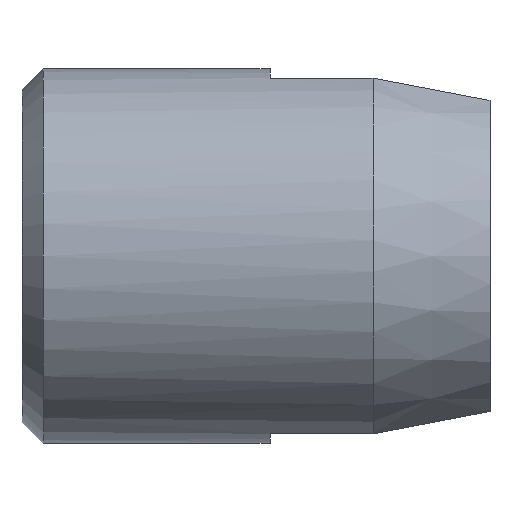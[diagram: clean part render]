
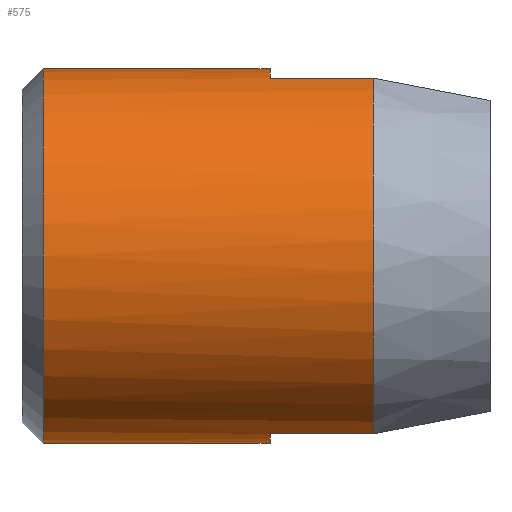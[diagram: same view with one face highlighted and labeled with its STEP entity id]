
A CAD part, front view. The second image highlights one B-rep face of the part: STEP entity #575.
In plain terms, the highlighted cylindrical face has radius 4 mm (diameter 8 mm), a partial arc.
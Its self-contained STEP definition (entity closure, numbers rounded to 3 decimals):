
#1 = CARTESIAN_POINT ( 'NONE',  ( -4.7, 0., 0. ) ) ;
#10 = AXIS2_PLACEMENT_3D ( 'NONE', #732, #444, #188 ) ;
#17 = DIRECTION ( 'NONE',  ( 0., 0., 1. ) ) ;
#45 = CARTESIAN_POINT ( 'NONE',  ( -4.7, 0., -4. ) ) ;
#50 = CIRCLE ( 'NONE', #425, 4. ) ;
#51 = VERTEX_POINT ( 'NONE', #477 ) ;
#70 = VECTOR ( 'NONE', #181, 1000. ) ;
#83 = ORIENTED_EDGE ( 'NONE', *, *, #726, .F. ) ;
#102 = CARTESIAN_POINT ( 'NONE',  ( -9.55, 0., 4. ) ) ;
#136 = ORIENTED_EDGE ( 'NONE', *, *, #747, .F. ) ;
#139 = VERTEX_POINT ( 'NONE', #102 ) ;
#162 = VERTEX_POINT ( 'NONE', #608 ) ;
#164 = DIRECTION ( 'NONE',  ( 0., 0., -1. ) ) ;
#170 = ORIENTED_EDGE ( 'NONE', *, *, #218, .F. ) ;
#175 = CARTESIAN_POINT ( 'NONE',  ( 21.562, 0., -4. ) ) ;
#179 = LINE ( 'NONE', #175, #70 ) ;
#181 = DIRECTION ( 'NONE',  ( 1., 0., 0. ) ) ;
#184 = CARTESIAN_POINT ( 'NONE',  ( -4.7, 0., 0. ) ) ;
#188 = DIRECTION ( 'NONE',  ( 0., 0., -1. ) ) ;
#199 = VERTEX_POINT ( 'NONE', #45 ) ;
#204 = AXIS2_PLACEMENT_3D ( 'NONE', #327, #682, #164 ) ;
#207 = VECTOR ( 'NONE', #536, 1000. ) ;
#208 = ORIENTED_EDGE ( 'NONE', *, *, #227, .T. ) ;
#218 = EDGE_CURVE ( 'NONE', #295, #300, #506, .T. ) ;
#227 = EDGE_CURVE ( 'NONE', #139, #51, #378, .T. ) ;
#228 = CARTESIAN_POINT ( 'NONE',  ( 21.562, -1.25, 3.8 ) ) ;
#234 = VECTOR ( 'NONE', #631, 1000. ) ;
#244 = EDGE_CURVE ( 'NONE', #51, #199, #179, .T. ) ;
#246 = DIRECTION ( 'NONE',  ( 1., 0., 0. ) ) ;
#249 = AXIS2_PLACEMENT_3D ( 'NONE', #264, #492, #728 ) ;
#252 = AXIS2_PLACEMENT_3D ( 'NONE', #1, #642, #403 ) ;
#264 = CARTESIAN_POINT ( 'NONE',  ( -9.55, 0., 0. ) ) ;
#265 = EDGE_CURVE ( 'NONE', #162, #634, #572, .T. ) ;
#273 = CYLINDRICAL_SURFACE ( 'NONE', #204, 4. ) ;
#295 = VERTEX_POINT ( 'NONE', #579 ) ;
#300 = VERTEX_POINT ( 'NONE', #704 ) ;
#315 = EDGE_LOOP ( 'NONE', ( #136, #208, #321, #752, #170, #334, #83, #604 ) ) ;
#319 = CARTESIAN_POINT ( 'NONE',  ( -4.7, -1.25, 3.8 ) ) ;
#321 = ORIENTED_EDGE ( 'NONE', *, *, #244, .T. ) ;
#327 = CARTESIAN_POINT ( 'NONE',  ( 21.562, 0., 0. ) ) ;
#334 = ORIENTED_EDGE ( 'NONE', *, *, #685, .F. ) ;
#378 = CIRCLE ( 'NONE', #249, 4. ) ;
#399 = CARTESIAN_POINT ( 'NONE',  ( 21.562, 0., 4. ) ) ;
#401 = VERTEX_POINT ( 'NONE', #599 ) ;
#403 = DIRECTION ( 'NONE',  ( 0., 0., 1. ) ) ;
#425 = AXIS2_PLACEMENT_3D ( 'NONE', #184, #246, #17 ) ;
#444 = DIRECTION ( 'NONE',  ( 1., 0., 0. ) ) ;
#453 = FACE_OUTER_BOUND ( 'NONE', #315, .T. ) ;
#454 = DIRECTION ( 'NONE',  ( -1., 0., 0. ) ) ;
#477 = CARTESIAN_POINT ( 'NONE',  ( -9.55, 0., -4. ) ) ;
#483 = EDGE_CURVE ( 'NONE', #300, #199, #50, .T. ) ;
#492 = DIRECTION ( 'NONE',  ( 1., 0., 0. ) ) ;
#506 = LINE ( 'NONE', #742, #700 ) ;
#510 = LINE ( 'NONE', #399, #207 ) ;
#536 = DIRECTION ( 'NONE',  ( 1., 0., 0. ) ) ;
#572 = CIRCLE ( 'NONE', #252, 4. ) ;
#575 = ADVANCED_FACE ( 'NONE', ( #453 ), #273, .T. ) ;
#579 = CARTESIAN_POINT ( 'NONE',  ( -2.5, -1.25, -3.8 ) ) ;
#581 = CIRCLE ( 'NONE', #10, 4. ) ;
#599 = CARTESIAN_POINT ( 'NONE',  ( -2.5, -1.25, 3.8 ) ) ;
#604 = ORIENTED_EDGE ( 'NONE', *, *, #265, .F. ) ;
#608 = CARTESIAN_POINT ( 'NONE',  ( -4.7, 0., 4. ) ) ;
#631 = DIRECTION ( 'NONE',  ( 1., 0., 0. ) ) ;
#634 = VERTEX_POINT ( 'NONE', #319 ) ;
#642 = DIRECTION ( 'NONE',  ( 1., 0., 0. ) ) ;
#652 = LINE ( 'NONE', #228, #234 ) ;
#682 = DIRECTION ( 'NONE',  ( 1., 0., 0. ) ) ;
#685 = EDGE_CURVE ( 'NONE', #401, #295, #581, .T. ) ;
#700 = VECTOR ( 'NONE', #454, 1000. ) ;
#704 = CARTESIAN_POINT ( 'NONE',  ( -4.7, -1.25, -3.8 ) ) ;
#726 = EDGE_CURVE ( 'NONE', #634, #401, #652, .T. ) ;
#728 = DIRECTION ( 'NONE',  ( 0., 0., 1. ) ) ;
#732 = CARTESIAN_POINT ( 'NONE',  ( -2.5, 0., 0. ) ) ;
#742 = CARTESIAN_POINT ( 'NONE',  ( 21.562, -1.25, -3.8 ) ) ;
#747 = EDGE_CURVE ( 'NONE', #139, #162, #510, .T. ) ;
#752 = ORIENTED_EDGE ( 'NONE', *, *, #483, .F. ) ;
